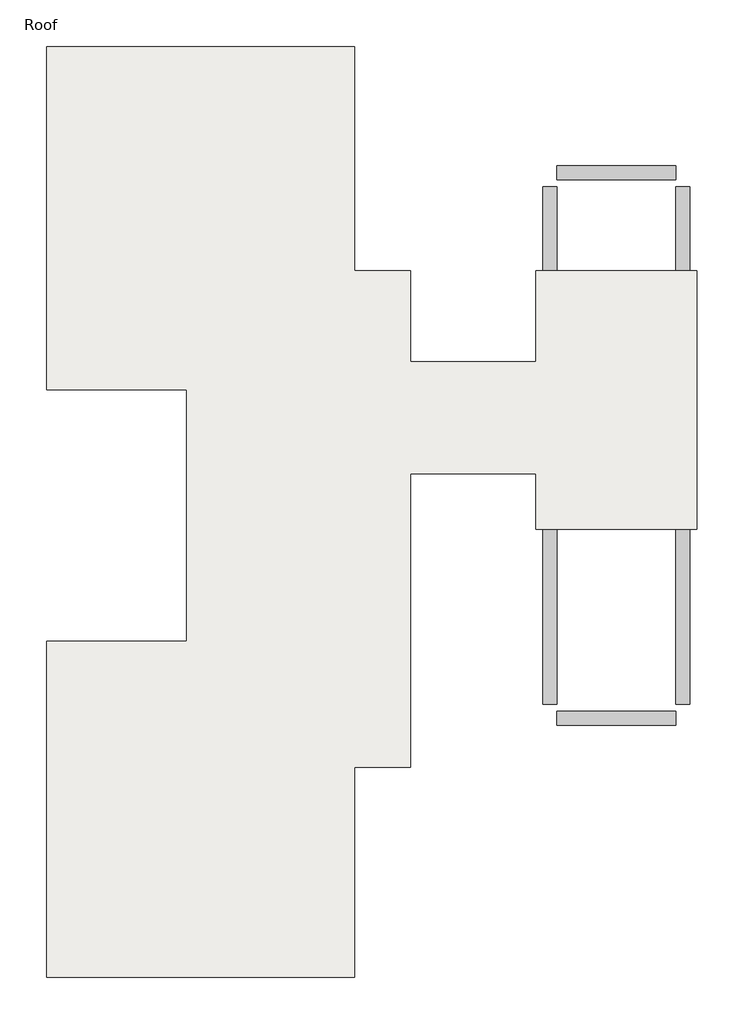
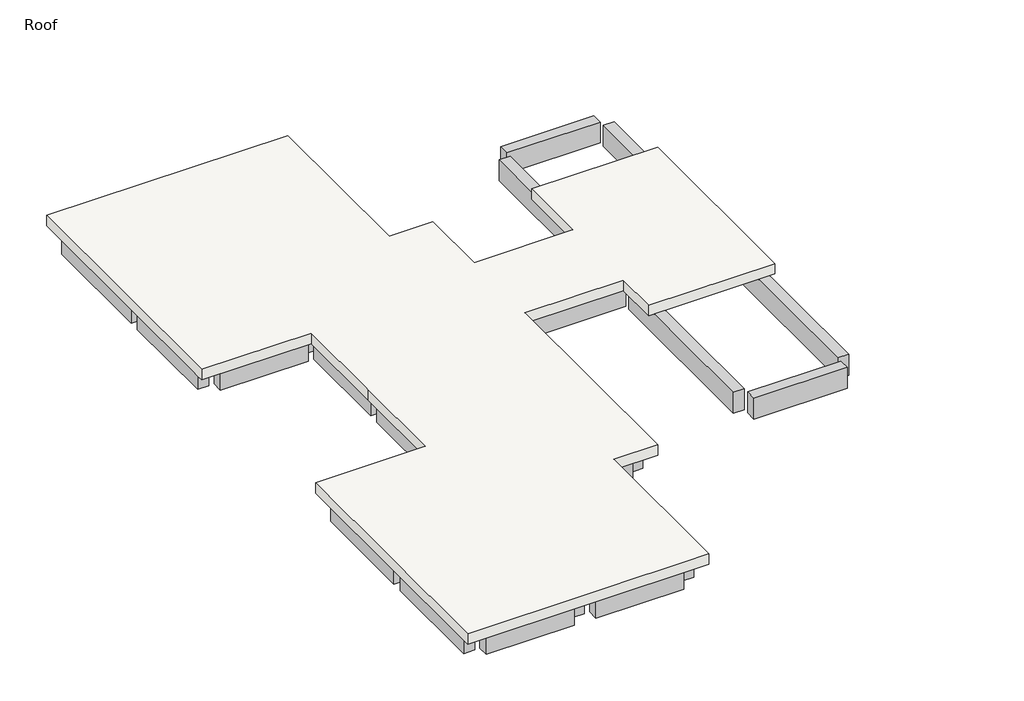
# One storey: 45 beams, 1 slab.
"""IFC4 building model written with IfcOpenShell, lengths in millimetres."""

import ifcopenshell
import ifcopenshell.guid

model = None  # the IFC model being written
_history = None  # IfcOwnerHistory: only IFC2X3 demands one
_inside = {}  # id of a spatial element -> (the spatial element, [elements in it])
_under = {}  # id of a project, library or spatial element -> (it, [spatial elements below it])
_declared = {}  # id of a project -> (the project, [libraries it declares])
_typed = {}  # id of a type object -> (the type object, [elements of that type])
_made_of = {}  # id of a material, layer set ... -> (it, [elements and type objects made of it])


def new_model(schema):
    """Start an empty IFC model of exactly this schema.

    Asked for "IFC4X3", IfcOpenShell would pick the latest addendum, in which some entities
    have other attributes; the version numbers below select the first issue.
    IFC2X3 requires an IfcOwnerHistory on every rooted entity: one is made here for all.
    """
    global model, _history
    if schema == "IFC4X3":
        model = ifcopenshell.file(schema_version=(4, 3, 0, 0))
    else:
        model = ifcopenshell.file(schema=schema)
    _inside.clear()
    _under.clear()
    _declared.clear()
    _typed.clear()
    _made_of.clear()
    _history = None
    if model.schema == "IFC2X3":
        org = make("IfcOrganization", Name="unknown")
        user = make(
            "IfcPersonAndOrganization",
            ThePerson=make("IfcPerson", FamilyName="unknown"),
            TheOrganization=org,
        )
        app = make(
            "IfcApplication",
            ApplicationDeveloper=org,
            Version="unknown",
            ApplicationFullName="unknown",
            ApplicationIdentifier="unknown",
        )
        _history = make(
            "IfcOwnerHistory",
            OwningUser=user,
            OwningApplication=app,
            ChangeAction="ADDED",
            CreationDate=0,
        )
    return model


def make(cls, **values):
    """One entity of the class cls with the attributes given. An attribute that is None is left unset."""
    return model.create_entity(
        cls, **{name: value for name, value in values.items() if value is not None}
    )


def rooted(cls, **values):
    """An entity with a GlobalId (a new one), such as an element, a storey or a relation."""
    return make(cls, GlobalId=ifcopenshell.guid.new(), OwnerHistory=_history, **values)


def si_unit(unit_type, name, prefix=None):
    """IfcSIUnit, for example si_unit("LENGTHUNIT", "METRE", prefix="MILLI")."""
    return make("IfcSIUnit", UnitType=unit_type, Prefix=prefix, Name=name)


def assignment(units):
    """IfcUnitAssignment: the units of a project."""
    return None if units is None else make("IfcUnitAssignment", Units=units)


def point(xyz):
    """IfcCartesianPoint."""
    return None if xyz is None else make("IfcCartesianPoint", Coordinates=xyz)


def direction(xyz):
    """IfcDirection."""
    return None if xyz is None else make("IfcDirection", DirectionRatios=xyz)


def frame(location, z_axis=None, x_axis=None):
    """IfcAxis2Placement3D, a coordinate frame: its origin and axes. An axis left out is left unset."""
    return make(
        "IfcAxis2Placement3D",
        Location=point(location),
        Axis=direction(z_axis),
        RefDirection=direction(x_axis),
    )


def origin():
    """The frame at (0, 0, 0) with its axes left unset."""
    return frame((0.0, 0.0, 0.0))


def place(relative_to, where):
    """IfcLocalPlacement: puts the frame where relative to a parent placement (None: the world)."""
    return make(
        "IfcLocalPlacement", PlacementRelTo=relative_to, RelativePlacement=where
    )


def context(
    kind, dimensions, precision=None, world=None, true_north=None, identifier=None
):
    """IfcGeometricRepresentationContext, for example the 3D "Model" context."""
    return make(
        "IfcGeometricRepresentationContext",
        ContextIdentifier=identifier,
        ContextType=kind,
        CoordinateSpaceDimension=dimensions,
        Precision=precision,
        WorldCoordinateSystem=world,
        TrueNorth=true_north,
    )


def project(units=None, contexts=None):
    """IfcProject with its units and contexts."""
    return rooted(
        "IfcProject",
        Name="project",
        RepresentationContexts=contexts,
        UnitsInContext=assignment(units),
    )


def spatial(cls, under=None, at=None, **own):
    """A site, building, storey or space (cls), placed at a placement, below another one or the project."""
    s = rooted(cls, ObjectPlacement=at, **own)
    if under is not None:
        _under.setdefault(under.id(), (under, []))[1].append(s)
    return s


def polyline(points):
    """IfcPolyline through the points."""
    return make("IfcPolyline", Points=[point(p) for p in points])


def outline(outer, holes=None, kind="AREA"):
    """IfcArbitraryClosedProfileDef: a profile drawn as a closed curve; with holes, ...WithVoids."""
    if holes is None:
        return make("IfcArbitraryClosedProfileDef", ProfileType=kind, OuterCurve=outer)
    return make(
        "IfcArbitraryProfileDefWithVoids",
        ProfileType=kind,
        OuterCurve=outer,
        InnerCurves=holes,
    )


def extrude(swept, where, along, depth):
    """IfcExtrudedAreaSolid: the profile swept, set in the frame where, extruded along a direction by depth."""
    return make(
        "IfcExtrudedAreaSolid",
        SweptArea=swept,
        Position=where,
        ExtrudedDirection=direction(along),
        Depth=depth,
    )


def faces_of(points, faces, orient=None, outer=None):
    """IfcFace entities. A face is a list of loops; a loop is a list of indices into points, from 0.

    orient and outer hold one flag for each loop. By default every Orientation is true, the
    first loop of a face is its IfcFaceOuterBound and the others are IfcFaceBound.
    """
    made = []
    for i, loops in enumerate(faces):
        bounds = []
        for j, loop in enumerate(loops):
            is_outer = j == 0 if outer is None else outer[i][j]
            bounds.append(
                make(
                    "IfcFaceOuterBound" if is_outer else "IfcFaceBound",
                    Bound=make("IfcPolyLoop", Polygon=[points[k] for k in loop]),
                    Orientation=True if orient is None else orient[i][j],
                )
            )
        made.append(make("IfcFace", Bounds=bounds))
    return made


def faceted_brep(points, faces, orient=None, outer=None, voids=None):
    """IfcFacetedBrep: a solid bounded by flat faces; with voids (closed shells), ...WithVoids."""
    shared = [point(p) for p in points]
    hull = make("IfcClosedShell", CfsFaces=faces_of(shared, faces, orient, outer))
    if voids is None:
        return make("IfcFacetedBrep", Outer=hull)
    return make(
        "IfcFacetedBrepWithVoids",
        Outer=hull,
        Voids=[
            make(cls, CfsFaces=faces_of(shared, fs, o, b)) for cls, fs, o, b in voids
        ],
    )


def shape(context_of_items, identifier, shape_type, items):
    """IfcShapeRepresentation: the items that make up one representation, for example the "Body"."""
    return make(
        "IfcShapeRepresentation",
        ContextOfItems=context_of_items,
        RepresentationIdentifier=identifier,
        RepresentationType=shape_type,
        Items=items,
    )


def made_of(thing, what):
    """Note that an element or type object is made of a material, layer set ...; save() writes the relation."""
    if what is not None:
        _made_of.setdefault(what.id(), (what, []))[1].append(thing)
    return thing


def element(
    cls,
    number,
    at=None,
    inside=None,
    cuts=None,
    type_object=None,
    material=None,
    context=None,
    identifier="Body",
    shape_type=None,
    held_by="IfcProductDefinitionShape",
    body=None,
    shapes=None,
    **own,
):
    """One element of the class cls, such as IfcWall. Its Tag is "e" and its number.

    at: its placement. inside: the storey or other place that contains it. cuts: it is an
    opening in that element (IfcRelVoidsElement). A single representation is given by context,
    identifier, shape_type and body (its items); several are given by shapes. held_by: the class
    of the entity that holds the representations. save() writes the other relations.
    """
    e = rooted(cls, Tag="e%d" % number, ObjectPlacement=at, **own)
    if body is not None:
        shapes = [shape(context, identifier, shape_type, body)]
    if shapes is not None:
        e.Representation = make(held_by, Representations=shapes)
    if inside is not None:
        _inside.setdefault(inside.id(), (inside, []))[1].append(e)
    if cuts is not None:
        rooted(
            "IfcRelVoidsElement", RelatingBuildingElement=cuts, RelatedOpeningElement=e
        )
    if type_object is not None:
        _typed.setdefault(type_object.id(), (type_object, []))[1].append(e)
    return made_of(e, material)


def aggregate(whole, parts):
    """IfcRelAggregates: a whole, such as a stair, and the parts it consists of."""
    return rooted("IfcRelAggregates", RelatingObject=whole, RelatedObjects=parts)


def save(model, path):
    """Write the relations noted so far, then the file.

    IfcRelAggregates (storeys below a building ...), IfcRelContainedInSpatialStructure (elements
    in a storey), IfcRelDefinesByType, IfcRelAssociatesMaterial and IfcRelDeclares: one each for
    every whole, place, type object, material and project.
    """
    for whole, parts in _under.values():
        aggregate(whole, parts)
    for where, things in _inside.values():
        rooted(
            "IfcRelContainedInSpatialStructure",
            RelatedElements=things,
            RelatingStructure=where,
        )
    for kind, things in _typed.values():
        rooted("IfcRelDefinesByType", RelatedObjects=things, RelatingType=kind)
    for what, things in _made_of.values():
        rooted("IfcRelAssociatesMaterial", RelatedObjects=things, RelatingMaterial=what)
    for by, libraries in _declared.values():
        rooted("IfcRelDeclares", RelatingContext=by, RelatedDefinitions=libraries)
    model.write(path)


model = new_model("IFC4")

# Units and contexts
model_context = context("Model", 3, world=origin())
ifc_project = project(units=[si_unit("LENGTHUNIT", "METRE", prefix="MILLI")], contexts=[model_context])

# Site, building, storey
site = spatial("IfcSite", under=ifc_project)
building = spatial("IfcBuilding", under=site)
storey = spatial("IfcBuildingStorey", under=building, Name="Roof", Elevation=7620.0)

# Beams
placement = place(None, origin())
element("IfcBeam", 1, ObjectType="Concrete-Rectangular Beam : 12 x 24", at=placement, inside=storey, context=model_context, shape_type="SweptSolid", body=[
    extrude(outline(polyline([(-20351.2093661, 22096.7691779), (-20351.2093661, 22401.5691779), (-17912.8093661, 22401.5691779), (-17912.8093661, 22096.7691779), (-20351.2093661, 22096.7691779)])), frame((0.0, 0.0, 6705.6), z_axis=(0.0, 0.0, 1.0), x_axis=(1.0, 0.0, 0.0)), (0.0, 0.0, 1.0), 609.6),
])
element("IfcBeam", 2, ObjectType="Concrete-Rectangular Beam : 12 x 24", at=placement, inside=storey, context=model_context, shape_type="SweptSolid", body=[
    extrude(outline(polyline([(-17303.2093661, 22096.7691779), (-17303.2093661, 22401.5691779), (-14864.8093661, 22401.5691779), (-14864.8093661, 22096.7691779), (-17303.2093661, 22096.7691779)])), frame((0.0, 0.0, 6705.6), z_axis=(0.0, 0.0, 1.0), x_axis=(1.0, 0.0, 0.0)), (0.0, 0.0, 1.0), 609.6),
])
element("IfcBeam", 3, ObjectType="Concrete-Rectangular Beam : 12 x 24", at=placement, inside=storey, context=model_context, shape_type="SweptSolid", body=[
    extrude(outline(polyline([(-14712.4093661, 22096.7691779), (-14407.6093661, 22096.7691779), (-14407.6093661, 18743.9691779), (-14712.4093661, 18743.9691779), (-14712.4093661, 22096.7691779)])), frame((0.0, 0.0, 6705.6), z_axis=(0.0, 0.0, 1.0), x_axis=(1.0, 0.0, 0.0)), (0.0, 0.0, 1.0), 609.6),
])
element("IfcBeam", 4, ObjectType="Concrete-Rectangular Beam : 12 x 24", at=placement, inside=storey, context=model_context, shape_type="Brep", body=[
    faceted_brep([(-14712.4093661, 17219.9691779, 7315.2), (-14407.6093661, 17219.9691779, 7315.2), (-14407.6093661, 17524.7691779, 7315.2), (-14407.6093661, 18439.1691779, 7315.2), (-14712.4093661, 18439.1691779, 7315.2), (-14712.4093661, 17219.9691779, 6705.6), (-14712.4093661, 18439.1691779, 6705.6), (-14407.6093661, 17219.9691779, 6705.6), (-14407.6093661, 18439.1691779, 6705.6), (-14407.6093661, 17524.7691779, 6705.6)], [[[0, 1, 2, 3, 4]], [[5, 0, 4, 6]], [[7, 5, 6, 8, 9]], [[1, 7, 9, 8, 3, 2]], [[4, 3, 8, 6]], [[1, 0, 5, 7]]]),
])
element("IfcBeam", 5, ObjectType="Concrete-Rectangular Beam : 12 x 24", at=placement, inside=storey, context=model_context, shape_type="SweptSolid", body=[
    extrude(outline(polyline([(-14407.6093661, 17219.9691779), (-14407.6093661, 17524.7691779), (-13645.6093661, 17524.7691779), (-13645.6093661, 17219.9691779), (-14407.6093661, 17219.9691779)])), frame((0.0, 0.0, 6705.6), z_axis=(0.0, 0.0, 1.0), x_axis=(1.0, 0.0, 0.0)), (0.0, 0.0, 1.0), 609.6),
])
element("IfcBeam", 6, ObjectType="Concrete-Rectangular Beam : 12 x 24", at=placement, inside=storey, context=model_context, shape_type="SweptSolid", body=[
    extrude(outline(polyline([(-13493.2093661, 17219.9691779), (-13188.4093661, 17219.9691779), (-13188.4093661, 15543.5691779), (-13493.2093661, 15543.5691779), (-13493.2093661, 17219.9691779)])), frame((0.0, 0.0, 6705.6), z_axis=(0.0, 0.0, 1.0), x_axis=(1.0, 0.0, 0.0)), (0.0, 0.0, 1.0), 609.6),
])
element("IfcBeam", 7, ObjectType="Concrete-Rectangular Beam : 12 x 24", at=placement, inside=storey, context=model_context, shape_type="Brep", body=[
    faceted_brep([(-13188.4093661, 15238.7691779, 7315.2), (-13493.2093661, 15238.7691779, 7315.2), (-13493.2093661, 12495.5691779, 7315.2), (-13188.4093661, 12495.5691779, 7315.2), (-13188.4093661, 13409.9691779, 7315.2), (-13188.4093661, 13714.7691779, 7315.2), (-13493.2093661, 15238.7691779, 6705.6), (-13493.2093661, 12495.5691779, 6705.6), (-13188.4093661, 15238.7691779, 6705.6), (-13188.4093661, 13714.7691779, 6705.6), (-13188.4093661, 13409.9691779, 6705.6), (-13188.4093661, 12495.5691779, 6705.6)], [[[0, 1, 2, 3, 4, 5]], [[1, 6, 7, 2]], [[6, 8, 9, 10, 11, 7]], [[8, 0, 5, 4, 3, 11, 10, 9]], [[6, 1, 0, 8]], [[3, 2, 7, 11]]]),
])
element("IfcBeam", 8, ObjectType="Concrete-Rectangular Beam : 12 x 24", at=placement, inside=storey, context=model_context, shape_type="SweptSolid", body=[
    extrude(outline(polyline([(-13493.2093661, 12190.7691779), (-13188.4093661, 12190.7691779), (-13188.4093661, 9447.5691779), (-13493.2093661, 9447.5691779), (-13493.2093661, 12190.7691779)])), frame((0.0, 0.0, 6705.6), z_axis=(0.0, 0.0, 1.0), x_axis=(1.0, 0.0, 0.0)), (0.0, 0.0, 1.0), 609.6),
])
element("IfcBeam", 9, ObjectType="Concrete-Rectangular Beam : 12 x 24", at=placement, inside=storey, context=model_context, shape_type="SweptSolid", body=[
    extrude(outline(polyline([(-13493.2093661, 9142.7691779), (-13188.4093661, 9142.7691779), (-13188.4093661, 7313.9691779), (-13493.2093661, 7313.9691779), (-13493.2093661, 9142.7691779)])), frame((0.0, 0.0, 6705.6), z_axis=(0.0, 0.0, 1.0), x_axis=(1.0, 0.0, 0.0)), (0.0, 0.0, 1.0), 609.6),
])
element("IfcBeam", 10, ObjectType="Concrete-Rectangular Beam : 12 x 24", at=placement, inside=storey, context=model_context, shape_type="Brep", body=[
    faceted_brep([(-14712.4093661, 7313.9691779, 7315.2), (-14712.4093661, 7009.1691779, 7315.2), (-14407.6093661, 7009.1691779, 7315.2), (-13645.6093661, 7009.1691779, 7315.2), (-13645.6093661, 7313.9691779, 7315.2), (-14712.4093661, 7313.9691779, 6705.6), (-13645.6093661, 7313.9691779, 6705.6), (-14712.4093661, 7009.1691779, 6705.6), (-13645.6093661, 7009.1691779, 6705.6), (-14407.6093661, 7009.1691779, 6705.6)], [[[0, 1, 2, 3, 4]], [[5, 0, 4, 6]], [[7, 5, 6, 8, 9]], [[1, 7, 9, 8, 3, 2]], [[4, 3, 8, 6]], [[1, 0, 5, 7]]]),
])
element("IfcBeam", 11, ObjectType="Concrete-Rectangular Beam : 12 x 24", at=placement, inside=storey, context=model_context, shape_type="SweptSolid", body=[
    extrude(outline(polyline([(-14712.4093661, 7009.1691779), (-14407.6093661, 7009.1691779), (-14407.6093661, 6094.7691779), (-14712.4093661, 6094.7691779), (-14712.4093661, 7009.1691779)])), frame((0.0, 0.0, 6705.6), z_axis=(0.0, 0.0, 1.0), x_axis=(1.0, 0.0, 0.0)), (0.0, 0.0, 1.0), 609.6),
])
element("IfcBeam", 12, ObjectType="Concrete-Rectangular Beam : 12 x 24", at=placement, inside=storey, context=model_context, shape_type="SweptSolid", body=[
    extrude(outline(polyline([(-14407.6093661, 2741.9691779), (-14712.4093661, 2741.9691779), (-14712.4093661, 5789.9691779), (-14407.6093661, 5789.9691779), (-14407.6093661, 2741.9691779)])), frame((0.0, 0.0, 6705.6), z_axis=(0.0, 0.0, 1.0), x_axis=(1.0, 0.0, 0.0)), (0.0, 0.0, 1.0), 609.6),
])
element("IfcBeam", 13, ObjectType="Concrete-Rectangular Beam : 12 x 24", at=placement, inside=storey, context=model_context, shape_type="SweptSolid", body=[
    extrude(outline(polyline([(-17303.2093661, 2437.1691779), (-17303.2093661, 2741.9691779), (-14864.8093661, 2741.9691779), (-14864.8093661, 2437.1691779), (-17303.2093661, 2437.1691779)])), frame((0.0, 0.0, 6705.6), z_axis=(0.0, 0.0, 1.0), x_axis=(1.0, 0.0, 0.0)), (0.0, 0.0, 1.0), 609.6),
])
element("IfcBeam", 14, ObjectType="Concrete-Rectangular Beam : 12 x 24", at=placement, inside=storey, context=model_context, shape_type="SweptSolid", body=[
    extrude(outline(polyline([(-20351.2093661, 2437.1691779), (-20351.2093661, 2741.9691779), (-17912.8093661, 2741.9691779), (-17912.8093661, 2437.1691779), (-20351.2093661, 2437.1691779)])), frame((0.0, 0.0, 6705.6), z_axis=(0.0, 0.0, 1.0), x_axis=(1.0, 0.0, 0.0)), (0.0, 0.0, 1.0), 609.6),
])
element("IfcBeam", 15, ObjectType="Concrete-Rectangular Beam : 12 x 24", at=placement, inside=storey, context=model_context, shape_type="SweptSolid", body=[
    extrude(outline(polyline([(-20503.6093661, 2741.9691779), (-20808.4093661, 2741.9691779), (-20808.4093661, 5789.9691779), (-20503.6093661, 5789.9691779), (-20503.6093661, 2741.9691779)])), frame((0.0, 0.0, 6705.6), z_axis=(0.0, 0.0, 1.0), x_axis=(1.0, 0.0, 0.0)), (0.0, 0.0, 1.0), 609.6),
])
element("IfcBeam", 16, ObjectType="Concrete-Rectangular Beam : 12 x 24", at=placement, inside=storey, context=model_context, shape_type="SweptSolid", body=[
    extrude(outline(polyline([(-20808.4093661, 9142.7691779), (-20503.6093661, 9142.7691779), (-20503.6093661, 6094.7691779), (-20808.4093661, 6094.7691779), (-20808.4093661, 9142.7691779)])), frame((0.0, 0.0, 6705.6), z_axis=(0.0, 0.0, 1.0), x_axis=(1.0, 0.0, 0.0)), (0.0, 0.0, 1.0), 609.6),
])
element("IfcBeam", 17, ObjectType="Concrete-Rectangular Beam : 12 x 24", at=placement, inside=storey, context=model_context, shape_type="SweptSolid", body=[
    extrude(outline(polyline([(-20351.2093661, 9142.7691779), (-20351.2093661, 9447.5691779), (-17912.8093661, 9447.5691779), (-17912.8093661, 9142.7691779), (-20351.2093661, 9142.7691779)])), frame((0.0, 0.0, 6705.6), z_axis=(0.0, 0.0, 1.0), x_axis=(1.0, 0.0, 0.0)), (0.0, 0.0, 1.0), 609.6),
])
element("IfcBeam", 18, ObjectType="Concrete-Rectangular Beam : 12 x 24", at=placement, inside=storey, context=model_context, shape_type="SweptSolid", body=[
    extrude(outline(polyline([(-17760.4093661, 9142.7691779), (-17455.6093661, 9142.7691779), (-17455.6093661, 6094.7691779), (-17760.4093661, 6094.7691779), (-17760.4093661, 9142.7691779)])), frame((0.0, 0.0, 6705.6), z_axis=(0.0, 0.0, 1.0), x_axis=(1.0, 0.0, 0.0)), (0.0, 0.0, 1.0), 609.6),
])
element("IfcBeam", 19, ObjectType="Concrete-Rectangular Beam : 12 x 24", at=placement, inside=storey, context=model_context, shape_type="SweptSolid", body=[
    extrude(outline(polyline([(-17455.6093661, 2741.9691779), (-17760.4093661, 2741.9691779), (-17760.4093661, 5789.9691779), (-17455.6093661, 5789.9691779), (-17455.6093661, 2741.9691779)])), frame((0.0, 0.0, 6705.6), z_axis=(0.0, 0.0, 1.0), x_axis=(1.0, 0.0, 0.0)), (0.0, 0.0, 1.0), 609.6),
])
element("IfcBeam", 20, ObjectType="Concrete-Rectangular Beam : 12 x 24", at=placement, inside=storey, context=model_context, shape_type="SweptSolid", body=[
    extrude(outline(polyline([(-17455.6093661, 9447.5691779), (-17760.4093661, 9447.5691779), (-17760.4093661, 12190.7691779), (-17455.6093661, 12190.7691779), (-17455.6093661, 9447.5691779)])), frame((0.0, 0.0, 6705.6), z_axis=(0.0, 0.0, 1.0), x_axis=(1.0, 0.0, 0.0)), (0.0, 0.0, 1.0), 609.6),
])
element("IfcBeam", 21, ObjectType="Concrete-Rectangular Beam : 12 x 24", at=placement, inside=storey, context=model_context, shape_type="SweptSolid", body=[
    extrude(outline(polyline([(-17760.4093661, 15238.7691779), (-17455.6093661, 15238.7691779), (-17455.6093661, 12495.5691779), (-17760.4093661, 12495.5691779), (-17760.4093661, 15238.7691779)])), frame((0.0, 0.0, 6705.6), z_axis=(0.0, 0.0, 1.0), x_axis=(1.0, 0.0, 0.0)), (0.0, 0.0, 1.0), 609.6),
])
element("IfcBeam", 22, ObjectType="Concrete-Rectangular Beam : 12 x 24", at=placement, inside=storey, context=model_context, shape_type="SweptSolid", body=[
    extrude(outline(polyline([(-20351.2093661, 15238.7691779), (-20351.2093661, 15543.5691779), (-17912.8093661, 15543.5691779), (-17912.8093661, 15238.7691779), (-20351.2093661, 15238.7691779)])), frame((0.0, 0.0, 6705.6), z_axis=(0.0, 0.0, 1.0), x_axis=(1.0, 0.0, 0.0)), (0.0, 0.0, 1.0), 609.6),
])
element("IfcBeam", 23, ObjectType="Concrete-Rectangular Beam : 12 x 24", at=placement, inside=storey, context=model_context, shape_type="SweptSolid", body=[
    extrude(outline(polyline([(-20503.6093661, 15543.5691779), (-20808.4093661, 15543.5691779), (-20808.4093661, 18439.1691779), (-20503.6093661, 18439.1691779), (-20503.6093661, 15543.5691779)])), frame((0.0, 0.0, 6705.6), z_axis=(0.0, 0.0, 1.0), x_axis=(1.0, 0.0, 0.0)), (0.0, 0.0, 1.0), 609.6),
])
element("IfcBeam", 24, ObjectType="Concrete-Rectangular Beam : 12 x 24", at=placement, inside=storey, context=model_context, shape_type="SweptSolid", body=[
    extrude(outline(polyline([(-20808.4093661, 22096.7691779), (-20503.6093661, 22096.7691779), (-20503.6093661, 18743.9691779), (-20808.4093661, 18743.9691779), (-20808.4093661, 22096.7691779)])), frame((0.0, 0.0, 6705.6), z_axis=(0.0, 0.0, 1.0), x_axis=(1.0, 0.0, 0.0)), (0.0, 0.0, 1.0), 609.6),
])
element("IfcBeam", 25, ObjectType="Concrete-Rectangular Beam : 12 x 24", at=placement, inside=storey, context=model_context, shape_type="SweptSolid", body=[
    extrude(outline(polyline([(-20351.2093661, 18439.1691779), (-20351.2093661, 18743.9691779), (-17912.8093661, 18743.9691779), (-17912.8093661, 18439.1691779), (-20351.2093661, 18439.1691779)])), frame((0.0, 0.0, 6705.6), z_axis=(0.0, 0.0, 1.0), x_axis=(1.0, 0.0, 0.0)), (0.0, 0.0, 1.0), 609.6),
])
element("IfcBeam", 26, ObjectType="Concrete-Rectangular Beam : 12 x 24", at=placement, inside=storey, context=model_context, shape_type="SweptSolid", body=[
    extrude(outline(polyline([(-17455.6093661, 18743.9691779), (-17760.4093661, 18743.9691779), (-17760.4093661, 22096.7691779), (-17455.6093661, 22096.7691779), (-17455.6093661, 18743.9691779)])), frame((0.0, 0.0, 6705.6), z_axis=(0.0, 0.0, 1.0), x_axis=(1.0, 0.0, 0.0)), (0.0, 0.0, 1.0), 609.6),
])
element("IfcBeam", 27, ObjectType="Concrete-Rectangular Beam : 12 x 24", at=placement, inside=storey, context=model_context, shape_type="SweptSolid", body=[
    extrude(outline(polyline([(-17760.4093661, 18439.1691779), (-17455.6093661, 18439.1691779), (-17455.6093661, 15543.5691779), (-17760.4093661, 15543.5691779), (-17760.4093661, 18439.1691779)])), frame((0.0, 0.0, 6705.6), z_axis=(0.0, 0.0, 1.0), x_axis=(1.0, 0.0, 0.0)), (0.0, 0.0, 1.0), 609.6),
])
element("IfcBeam", 28, ObjectType="Concrete-Rectangular Beam : 12 x 24", at=placement, inside=storey, context=model_context, shape_type="SweptSolid", body=[
    extrude(outline(polyline([(-20351.2093661, 5789.9691779), (-20351.2093661, 6094.7691779), (-17912.8093661, 6094.7691779), (-17912.8093661, 5789.9691779), (-20351.2093661, 5789.9691779)])), frame((0.0, 0.0, 6705.6), z_axis=(0.0, 0.0, 1.0), x_axis=(1.0, 0.0, 0.0)), (0.0, 0.0, 1.0), 609.6),
])
element("IfcBeam", 29, ObjectType="Concrete-Rectangular Beam : 12 x 24", at=placement, inside=storey, context=model_context, shape_type="SweptSolid", body=[
    extrude(outline(polyline([(-17303.2093661, 5789.9691779), (-17303.2093661, 6094.7691779), (-14864.8093661, 6094.7691779), (-14864.8093661, 5789.9691779), (-17303.2093661, 5789.9691779)])), frame((0.0, 0.0, 6705.6), z_axis=(0.0, 0.0, 1.0), x_axis=(1.0, 0.0, 0.0)), (0.0, 0.0, 1.0), 609.6),
])
element("IfcBeam", 30, ObjectType="Concrete-Rectangular Beam : 12 x 24", at=placement, inside=storey, context=model_context, shape_type="SweptSolid", body=[
    extrude(outline(polyline([(-17303.2093661, 9142.7691779), (-17303.2093661, 9447.5691779), (-13645.6093661, 9447.5691779), (-13645.6093661, 9142.7691779), (-17303.2093661, 9142.7691779)])), frame((0.0, 0.0, 6705.6), z_axis=(0.0, 0.0, 1.0), x_axis=(1.0, 0.0, 0.0)), (0.0, 0.0, 1.0), 609.6),
])
element("IfcBeam", 31, ObjectType="Concrete-Rectangular Beam : 12 x 24", at=placement, inside=storey, context=model_context, shape_type="SweptSolid", body=[
    extrude(outline(polyline([(-13645.6093661, 12495.5691779), (-13645.6093661, 12190.7691779), (-17303.2093661, 12190.7691779), (-17303.2093661, 12495.5691779), (-13645.6093661, 12495.5691779)])), frame((0.0, 0.0, 6705.6), z_axis=(0.0, 0.0, 1.0), x_axis=(1.0, 0.0, 0.0)), (0.0, 0.0, 1.0), 609.6),
])
element("IfcBeam", 32, ObjectType="Concrete-Rectangular Beam : 12 x 24", at=placement, inside=storey, context=model_context, shape_type="SweptSolid", body=[
    extrude(outline(polyline([(-17303.2093661, 15238.7691779), (-17303.2093661, 15543.5691779), (-13645.6093661, 15543.5691779), (-13645.6093661, 15238.7691779), (-17303.2093661, 15238.7691779)])), frame((0.0, 0.0, 6705.6), z_axis=(0.0, 0.0, 1.0), x_axis=(1.0, 0.0, 0.0)), (0.0, 0.0, 1.0), 609.6),
])
element("IfcBeam", 33, ObjectType="Concrete-Rectangular Beam : 12 x 24", at=placement, inside=storey, context=model_context, shape_type="SweptSolid", body=[
    extrude(outline(polyline([(-17303.2093661, 18439.1691779), (-17303.2093661, 18743.9691779), (-14864.8093661, 18743.9691779), (-14864.8093661, 18439.1691779), (-17303.2093661, 18439.1691779)])), frame((0.0, 0.0, 6705.6), z_axis=(0.0, 0.0, 1.0), x_axis=(1.0, 0.0, 0.0)), (0.0, 0.0, 1.0), 609.6),
])
element("IfcBeam", 34, ObjectType="Concrete-Rectangular Beam : 12 x 24", at=placement, inside=storey, context=model_context, shape_type="SweptSolid", body=[
    extrude(outline(polyline([(-10140.4093661, 13714.7691779), (-10140.4093661, 13409.9691779), (-13188.4093661, 13409.9691779), (-13188.4093661, 13714.7691779), (-10140.4093661, 13714.7691779)])), frame((0.0, 0.0, 6705.6), z_axis=(0.0, 0.0, 1.0), x_axis=(1.0, 0.0, 0.0)), (0.0, 0.0, 1.0), 609.6),
])
element("IfcBeam", 35, ObjectType="Concrete-Rectangular Beam : 12 x 24", at=placement, inside=storey, context=model_context, shape_type="SweptSolid", body=[
    extrude(outline(polyline([(-10140.4093661, 15543.5691779), (-10140.4093661, 15238.7691779), (-13036.0093661, 15238.7691779), (-13036.0093661, 15543.5691779), (-10140.4093661, 15543.5691779)])), frame((0.0, 0.0, 6705.6), z_axis=(0.0, 0.0, 1.0), x_axis=(1.0, 0.0, 0.0)), (0.0, 0.0, 1.0), 609.6),
])
element("IfcBeam", 36, ObjectType="Concrete-Rectangular Beam : 12 x 24", at=placement, inside=storey, context=model_context, shape_type="SweptSolid", body=[
    extrude(outline(polyline([(-9835.6093661, 15238.7691779), (-9835.6093661, 15543.5691779), (-7244.8093661, 15543.5691779), (-7244.8093661, 15238.7691779), (-9835.6093661, 15238.7691779)])), frame((0.0, 0.0, 6705.6), z_axis=(0.0, 0.0, 1.0), x_axis=(1.0, 0.0, 0.0)), (0.0, 0.0, 1.0), 609.6),
])
element("IfcBeam", 37, ObjectType="Concrete-Rectangular Beam : 12 x 24", at=placement, inside=storey, context=model_context, shape_type="SweptSolid", body=[
    extrude(outline(polyline([(-9835.6093661, 13409.9691779), (-9835.6093661, 13714.7691779), (-7244.8093661, 13714.7691779), (-7244.8093661, 13409.9691779), (-9835.6093661, 13409.9691779)])), frame((0.0, 0.0, 6705.6), z_axis=(0.0, 0.0, 1.0), x_axis=(1.0, 0.0, 0.0)), (0.0, 0.0, 1.0), 609.6),
])
element("IfcBeam", 38, ObjectType="Concrete-Rectangular Beam : 12 x 24", at=placement, inside=storey, context=model_context, shape_type="SweptSolid", body=[
    extrude(outline(polyline([(-10140.4093661, 13257.5691779), (-9835.6093661, 13257.5691779), (-9835.6093661, 8228.3691779), (-10140.4093661, 8228.3691779), (-10140.4093661, 13257.5691779)])), frame((0.0, 0.0, 6705.6), z_axis=(0.0, 0.0, 1.0), x_axis=(1.0, 0.0, 0.0)), (0.0, 0.0, 1.0), 609.6),
])
element("IfcBeam", 39, ObjectType="Concrete-Rectangular Beam : 12 x 24", at=placement, inside=storey, context=model_context, shape_type="SweptSolid", body=[
    extrude(outline(polyline([(-10140.4093661, 15086.3691779), (-9835.6093661, 15086.3691779), (-9835.6093661, 13867.1691779), (-10140.4093661, 13867.1691779), (-10140.4093661, 15086.3691779)])), frame((0.0, 0.0, 6705.6), z_axis=(0.0, 0.0, 1.0), x_axis=(1.0, 0.0, 0.0)), (0.0, 0.0, 1.0), 609.6),
])
element("IfcBeam", 40, ObjectType="Concrete-Rectangular Beam : 12 x 24", at=placement, inside=storey, context=model_context, shape_type="SweptSolid", body=[
    extrude(outline(polyline([(-9835.6093661, 15695.9691779), (-10140.4093661, 15695.9691779), (-10140.4093661, 19505.9691779), (-9835.6093661, 19505.9691779), (-9835.6093661, 15695.9691779)])), frame((0.0, 0.0, 6705.6), z_axis=(0.0, 0.0, 1.0), x_axis=(1.0, 0.0, 0.0)), (0.0, 0.0, 1.0), 609.6),
])
element("IfcBeam", 41, ObjectType="Concrete-Rectangular Beam : 12 x 24", at=placement, inside=storey, context=model_context, shape_type="SweptSolid", body=[
    extrude(outline(polyline([(-9835.6093661, 19658.3691779), (-9835.6093661, 19963.1691779), (-7244.8093661, 19963.1691779), (-7244.8093661, 19658.3691779), (-9835.6093661, 19658.3691779)])), frame((0.0, 0.0, 6705.6), z_axis=(0.0, 0.0, 1.0), x_axis=(1.0, 0.0, 0.0)), (0.0, 0.0, 1.0), 609.6),
])
element("IfcBeam", 42, ObjectType="Concrete-Rectangular Beam : 12 x 24", at=placement, inside=storey, context=model_context, shape_type="SweptSolid", body=[
    extrude(outline(polyline([(-6940.0093661, 15695.9691779), (-7244.8093661, 15695.9691779), (-7244.8093661, 19505.9691779), (-6940.0093661, 19505.9691779), (-6940.0093661, 15695.9691779)])), frame((0.0, 0.0, 6705.6), z_axis=(0.0, 0.0, 1.0), x_axis=(1.0, 0.0, 0.0)), (0.0, 0.0, 1.0), 609.6),
])
element("IfcBeam", 43, ObjectType="Concrete-Rectangular Beam : 12 x 24", at=placement, inside=storey, context=model_context, shape_type="SweptSolid", body=[
    extrude(outline(polyline([(-7244.8093661, 15086.3691779), (-6940.0093661, 15086.3691779), (-6940.0093661, 13867.1691779), (-7244.8093661, 13867.1691779), (-7244.8093661, 15086.3691779)])), frame((0.0, 0.0, 6705.6), z_axis=(0.0, 0.0, 1.0), x_axis=(1.0, 0.0, 0.0)), (0.0, 0.0, 1.0), 609.6),
])
element("IfcBeam", 44, ObjectType="Concrete-Rectangular Beam : 12 x 24", at=placement, inside=storey, context=model_context, shape_type="SweptSolid", body=[
    extrude(outline(polyline([(-7244.8093661, 13257.5691779), (-6940.0093661, 13257.5691779), (-6940.0093661, 8228.3691779), (-7244.8093661, 8228.3691779), (-7244.8093661, 13257.5691779)])), frame((0.0, 0.0, 6705.6), z_axis=(0.0, 0.0, 1.0), x_axis=(1.0, 0.0, 0.0)), (0.0, 0.0, 1.0), 609.6),
])
element("IfcBeam", 45, ObjectType="Concrete-Rectangular Beam : 12 x 24", at=placement, inside=storey, context=model_context, shape_type="SweptSolid", body=[
    extrude(outline(polyline([(-7244.8093661, 8075.9691779), (-7244.8093661, 7771.1691779), (-9835.6093661, 7771.1691779), (-9835.6093661, 8075.9691779), (-7244.8093661, 8075.9691779)])), frame((0.0, 0.0, 6705.6), z_axis=(0.0, 0.0, 1.0), x_axis=(1.0, 0.0, 0.0)), (0.0, 0.0, 1.0), 609.6),
])

# Slab
element("IfcSlab", 46, ObjectType="Generic - 12\"", at=placement, inside=storey, context=model_context, shape_type="Brep", body=[
    faceted_brep([(-14255.2093661, 22553.9691779, 7315.2), (-14255.2093661, 22401.5691779, 7315.2), (-14255.2093661, 22096.7691779, 7315.2), (-14255.2093661, 18743.9691779, 7315.2), (-14255.2093661, 18439.1691779, 7315.2), (-14255.2093661, 17677.1691779, 7315.2), (-13036.0093661, 17677.1691779, 7315.2), (-13036.0093661, 17524.7691779, 7315.2), (-13036.0093661, 17219.9691779, 7315.2), (-13036.0093661, 15695.9691779, 7315.2), (-10292.8093661, 15695.9691779, 7315.2), (-10292.8093661, 17677.1691779, 7315.2), (-6787.6093661, 17677.1691779, 7315.2), (-6787.6093661, 12038.3691779, 7315.2), (-10292.8093661, 12038.3691779, 7315.2), (-10292.8093661, 13257.5691779, 7315.2), (-13036.0093661, 13257.5691779, 7315.2), (-13036.0093661, 12495.5691779, 7315.2), (-13036.0093661, 12190.7691779, 7315.2), (-13036.0093661, 9447.5691779, 7315.2), (-13036.0093661, 9142.7691779, 7315.2), (-13036.0093661, 7313.9691779, 7315.2), (-13036.0093661, 7009.1691779, 7315.2), (-13036.0093661, 6856.7691779, 7315.2), (-14255.2093661, 6856.7691779, 7315.2), (-14255.2093661, 6094.7691779, 7315.2), (-14255.2093661, 5789.9691779, 7315.2), (-14255.2093661, 2741.9691779, 7315.2), (-14255.2093661, 2437.1691779, 7315.2), (-14255.2093661, 2284.7691779, 7315.2), (-20960.8093661, 2284.7691779, 7315.2), (-20960.8093661, 2437.1691779, 7315.2), (-20960.8093661, 2741.9691779, 7315.2), (-20960.8093661, 5789.9691779, 7315.2), (-20960.8093661, 6094.7691779, 7315.2), (-20960.8093661, 9142.7691779, 7315.2), (-20960.8093661, 9447.5691779, 7315.2), (-20960.8093661, 9599.9691779, 7315.2), (-17912.8093661, 9599.9691779, 7315.2), (-17912.8093661, 12190.7691779, 7315.2), (-17912.8093661, 12343.1691779, 7315.2), (-17912.8093661, 12495.5691779, 7315.2), (-17912.8093661, 15086.3691779, 7315.2), (-20960.8093661, 15086.3691779, 7315.2), (-20960.8093661, 15238.7691779, 7315.2), (-20960.8093661, 15543.5691779, 7315.2), (-20960.8093661, 18439.1691779, 7315.2), (-20960.8093661, 18743.9691779, 7315.2), (-20960.8093661, 22096.7691779, 7315.2), (-20960.8093661, 22401.5691779, 7315.2), (-20960.8093661, 22553.9691779, 7315.2), (-14255.2093661, 22553.9691779, 7620.0), (-20960.8093661, 22553.9691779, 7620.0), (-20960.8093661, 15086.3691779, 7620.0), (-17912.8093661, 15086.3691779, 7620.0), (-17912.8093661, 12343.1691779, 7620.0), (-17912.8093661, 9599.9691779, 7620.0), (-20960.8093661, 9599.9691779, 7620.0), (-20960.8093661, 2284.7691779, 7620.0), (-14255.2093661, 2284.7691779, 7620.0), (-14255.2093661, 6856.7691779, 7620.0), (-13036.0093661, 6856.7691779, 7620.0), (-13036.0093661, 13257.5691779, 7620.0), (-10292.8093661, 13257.5691779, 7620.0), (-10292.8093661, 12038.3691779, 7620.0), (-6787.6093661, 12038.3691779, 7620.0), (-6787.6093661, 17677.1691779, 7620.0), (-10292.8093661, 17677.1691779, 7620.0), (-10292.8093661, 15695.9691779, 7620.0), (-13036.0093661, 15695.9691779, 7620.0), (-13036.0093661, 17677.1691779, 7620.0), (-14255.2093661, 17677.1691779, 7620.0)], [[[0, 1, 2, 3, 4, 5, 6, 7, 8, 9, 10, 11, 12, 13, 14, 15, 16, 17, 18, 19, 20, 21, 22, 23, 24, 25, 26, 27, 28, 29, 30, 31, 32, 33, 34, 35, 36, 37, 38, 39, 40, 41, 42, 43, 44, 45, 46, 47, 48, 49, 50]], [[51, 52, 53, 54, 55, 56, 57, 58, 59, 60, 61, 62, 63, 64, 65, 66, 67, 68, 69, 70, 71]], [[5, 4, 3, 2, 1, 0, 51, 71]], [[6, 5, 71, 70]], [[9, 8, 7, 6, 70, 69]], [[10, 9, 69, 68]], [[11, 10, 68, 67]], [[12, 11, 67, 66]], [[13, 12, 66, 65]], [[14, 13, 65, 64]], [[15, 14, 64, 63]], [[16, 15, 63, 62]], [[23, 22, 21, 20, 19, 18, 17, 16, 62, 61]], [[24, 23, 61, 60]], [[29, 28, 27, 26, 25, 24, 60, 59]], [[30, 29, 59, 58]], [[37, 36, 35, 34, 33, 32, 31, 30, 58, 57]], [[38, 37, 57, 56]], [[40, 39, 38, 56, 55]], [[42, 41, 40, 55, 54]], [[43, 42, 54, 53]], [[50, 49, 48, 47, 46, 45, 44, 43, 53, 52]], [[0, 50, 52, 51]]]),
])

save(model, "model.ifc")
